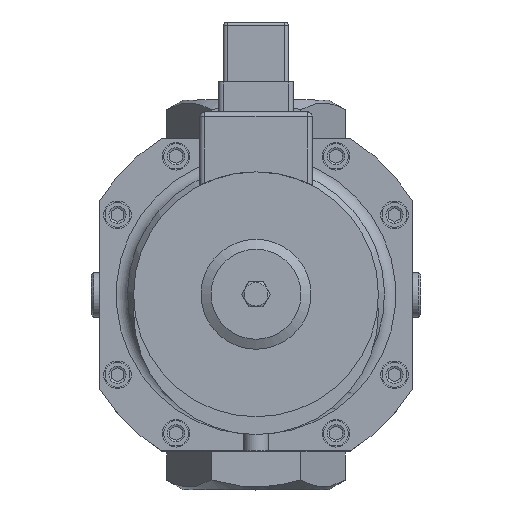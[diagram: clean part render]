
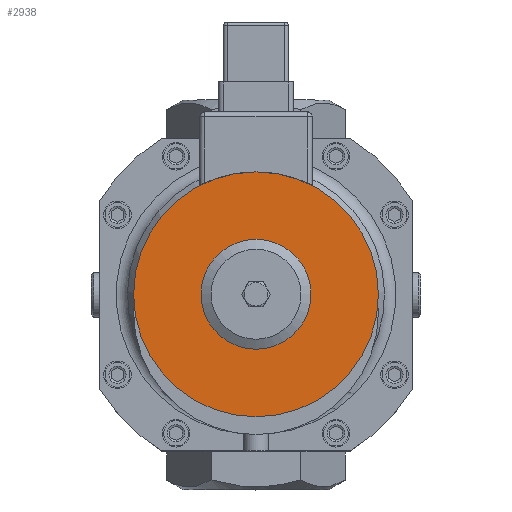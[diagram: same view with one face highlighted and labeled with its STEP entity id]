
A CAD part, top view. The second image highlights one B-rep face of the part: STEP entity #2938.
In plain terms, the highlighted planar face has unit normal (0, 0, 1).
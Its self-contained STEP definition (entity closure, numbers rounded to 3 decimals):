
#2938 = ADVANCED_FACE( '', ( #4742, #4743 ), #4744, .F. );
#4742 = FACE_BOUND( '', #7655, .T. );
#4743 = FACE_OUTER_BOUND( '', #7656, .T. );
#4744 = PLANE( '', #7657 );
#7655 = EDGE_LOOP( '', ( #11874 ) );
#7656 = EDGE_LOOP( '', ( #11875 ) );
#7657 = AXIS2_PLACEMENT_3D( '', #11876, #11877, #11878 );
#11874 = ORIENTED_EDGE( '', *, *, #12896, .T. );
#11875 = ORIENTED_EDGE( '', *, *, #12879, .F. );
#11876 = CARTESIAN_POINT( '', ( 0., -7., 80. ) );
#11877 = DIRECTION( '', ( 0., 0., -1. ) );
#11878 = DIRECTION( '', ( -1., 0., 0. ) );
#12879 = EDGE_CURVE( '', #14779, #14779, #14780, .T. );
#12896 = EDGE_CURVE( '', #14808, #14808, #14809, .T. );
#14779 = VERTEX_POINT( '', #20161 );
#14780 = CIRCLE( '', #20162, 49. );
#14808 = VERTEX_POINT( '', #20250 );
#14809 = CIRCLE( '', #20251, 20. );
#20161 = CARTESIAN_POINT( '', ( 0., 42., 80. ) );
#20162 = AXIS2_PLACEMENT_3D( '', #22310, #22311, #22312 );
#20250 = CARTESIAN_POINT( '', ( 0., 13., 80. ) );
#20251 = AXIS2_PLACEMENT_3D( '', #22337, #22338, #22339 );
#22310 = CARTESIAN_POINT( '', ( 0., -7., 80. ) );
#22311 = DIRECTION( '', ( 0., 0., -1. ) );
#22312 = DIRECTION( '', ( 0., 1., 0. ) );
#22337 = CARTESIAN_POINT( '', ( 0., -7., 80. ) );
#22338 = DIRECTION( '', ( 0., 0., -1. ) );
#22339 = DIRECTION( '', ( 0., 1., 0. ) );
